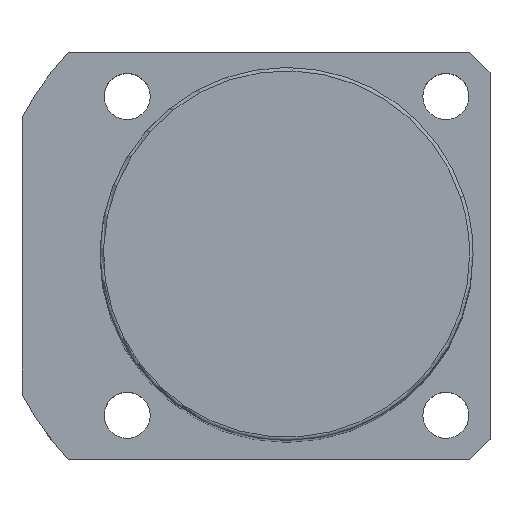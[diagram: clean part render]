
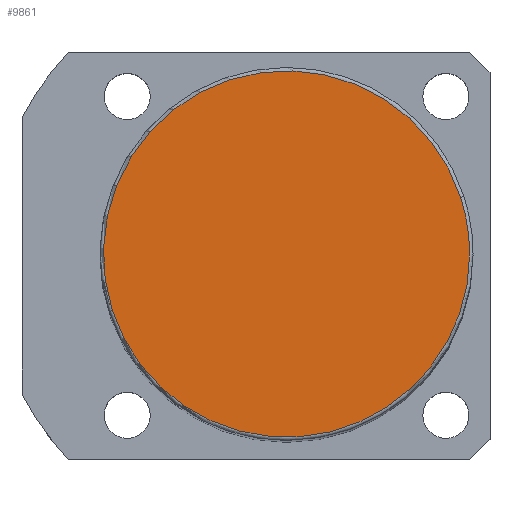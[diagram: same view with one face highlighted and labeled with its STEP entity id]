
A CAD part, top view. The second image highlights one B-rep face of the part: STEP entity #9861.
In plain terms, the highlighted planar face has unit normal (0, 0, 1).
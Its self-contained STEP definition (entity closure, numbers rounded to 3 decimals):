
#9827=CARTESIAN_POINT('',(27.0,0.0,171.0));
#9828=VERTEX_POINT('',#9827);
#9829=CARTESIAN_POINT('',(25.679,8.343,171.0));
#9830=VERTEX_POINT('',#9829);
#9831=CARTESIAN_POINT('',(0.0,0.0,171.0));
#9832=DIRECTION('',(0.0,0.0,1.0));
#9833=DIRECTION('',(1.0,0.0,0.0));
#9834=AXIS2_PLACEMENT_3D('',#9831,#9832,#9833);
#9835=CIRCLE('',#9834,27.0);
#9836=EDGE_CURVE('no 4570',#9828,#9830,#9835,.T.);
#9837=ORIENTED_EDGE('',*,*,#9836,.T.);
#9838=CARTESIAN_POINT('',(-25.679,-8.343,171.0));
#9839=VERTEX_POINT('',#9838);
#9840=CARTESIAN_POINT('',(0.0,0.0,171.0));
#9841=DIRECTION('',(0.0,0.0,1.0));
#9842=DIRECTION('',(1.0,0.0,0.0));
#9843=AXIS2_PLACEMENT_3D('',#9840,#9841,#9842);
#9844=CIRCLE('',#9843,27.0);
#9845=EDGE_CURVE('no 4576',#9830,#9839,#9844,.T.);
#9846=ORIENTED_EDGE('',*,*,#9845,.T.);
#9847=CARTESIAN_POINT('',(0.0,0.0,171.0));
#9848=DIRECTION('',(0.0,0.0,1.0));
#9849=DIRECTION('',(1.0,0.0,0.0));
#9850=AXIS2_PLACEMENT_3D('',#9847,#9848,#9849);
#9851=CIRCLE('',#9850,27.0);
#9852=EDGE_CURVE('no 4580',#9839,#9828,#9851,.T.);
#9853=ORIENTED_EDGE('',*,*,#9852,.T.);
#9854=EDGE_LOOP('',(#9837,#9846,#9853));
#9855=FACE_OUTER_BOUND('',#9854,.T.);
#9856=CARTESIAN_POINT('',(0.0,0.0,171.0));
#9857=DIRECTION('',(0.0,0.0,1.0));
#9858=DIRECTION('',(1.0,0.0,0.0));
#9859=AXIS2_PLACEMENT_3D('',#9856,#9857,#9858);
#9860=PLANE('',#9859);
#9861=ADVANCED_FACE('no 4561',(#9855),#9860,.T.);
